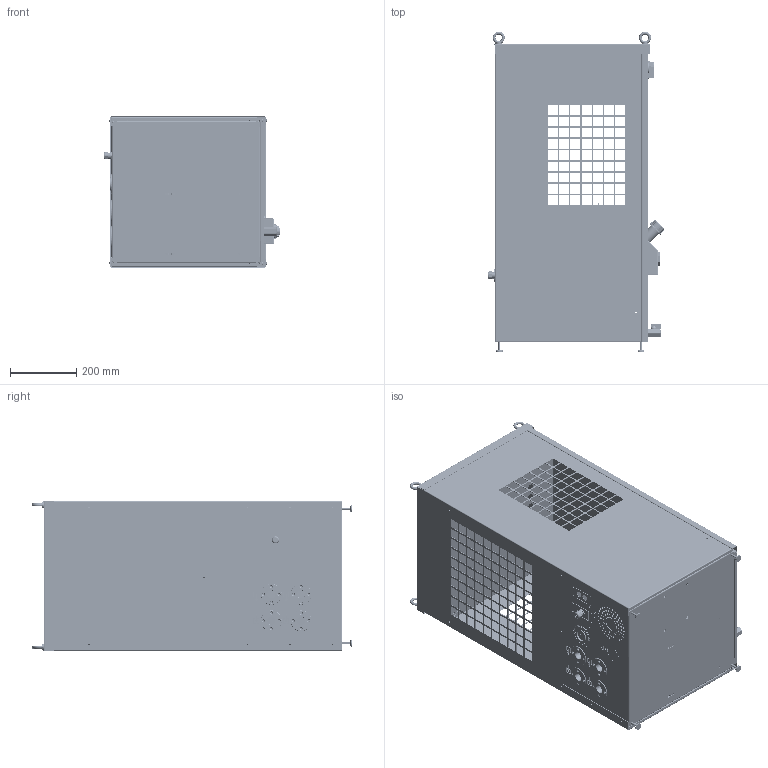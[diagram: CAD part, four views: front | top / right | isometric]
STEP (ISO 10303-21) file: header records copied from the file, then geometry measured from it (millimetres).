
FILE_DESCRIPTION (( 'STEP AP214' ), '1' );
FILE_NAME ('WCW-SCW_ECP1-B.STEP', '2019-03-04T08:13:48', ( 'Utente' ), ( 'Microsoft' ), 'SwSTEP 2.0', 'SolidWorks 2013', '' );
FILE_SCHEMA (( 'AUTOMOTIVE_DESIGN' ));
Length unit declared in the file: millimetre
Products named in the file (27): CR-1C-00026_001; INSERTO ESAG  1G; VR-1C-00013_001; SE-RP-00039_000_CORPO; CR-1C-00027_004; ST-AT-00021_002; pg11_Cable-Gland-1.209.1102.15-Nelco; WCW-SCW_ECP1-B; pg11 part2_Nut-PA-Blue-22-22-25-Nelco; pg11 part1_Socket-1.209.1102.15-Nelco; SELETTORE_PICCOLO; TA-RG-00041; GOLFARE M8; TE-EL-00007 - EW_971_230V; AN-PI-00008_ANTIVIBR. TIPO PIEDE 20x15h M6; VR-1C-00015_002; VR-1C-00014_002; MA-N1-00001_MANOMETRO ACQUA 40mm 0-12 BAR; VR-1C-00037_003; VR-1C-00018_003; VA-A5-00001; VR-1C-00017_003; TAPPO 1P  FEM ; CR-1C-00028_002; IN-VI-00001; CR-1C-00025_001; SE-RP-00039_000
Assembly tree (35 placements, depth 3):
  WCW-SCW_ECP1-B
    CR-1C-00027_004
    VR-1C-00013_001
    CR-1C-00026_001
    CR-1C-00025_001
    CR-1C-00028_002
    VR-1C-00017_003
    VR-1C-00018_003
    VR-1C-00037_003
    VR-1C-00014_002
    VR-1C-00015_002
    AN-PI-00008_ANTIVIBR. TIPO PIEDE 20x15h M6  x4
    TE-EL-00007 - EW_971_230V
    GOLFARE M8  x4
    TA-RG-00041
    SELETTORE_PICCOLO
    pg11_Cable-Gland-1.209.1102.15-Nelco
      pg11 part1_Socket-1.209.1102.15-Nelco
      pg11 part2_Nut-PA-Blue-22-22-25-Nelco
    ST-AT-00021_002  x4
    SE-RP-00039_000
      SE-RP-00039_000_CORPO
      INSERTO ESAG  1G
    IN-VI-00001
    TAPPO 1P  FEM 
    VA-A5-00001
    MA-N1-00001_MANOMETRO ACQUA 40mm 0-12 BAR
Bounding box: 535.01 x 968.5 x 460 mm (x, y, z)
Volume: 5642834.9 mm3; surface area: 6583829.6 mm2
Topology: 153 solids, 153 shells, 6138 faces, 15992 edges, 10208 vertices
Faces by surface type: plane 3847, cylinder 1409, bspline 358, cone 351, torus 126, sphere 47
Entity records: 214121 total; most frequent: CARTESIAN_POINT 55011, ORIENTED_EDGE 30922, DIRECTION 28170, EDGE_CURVE 15461, LINE 11116, VECTOR 11116, VERTEX_POINT 9908, AXIS2_PLACEMENT_3D 8527
